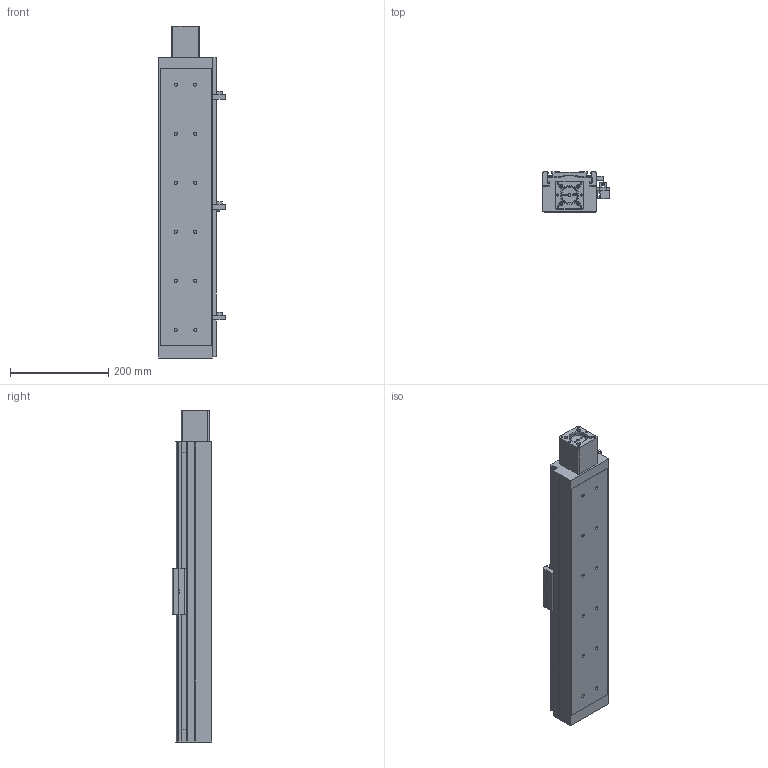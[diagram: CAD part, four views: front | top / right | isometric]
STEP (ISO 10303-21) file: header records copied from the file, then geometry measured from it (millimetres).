
FILE_DESCRIPTION((''),'2;1');
FILE_NAME('E:\libraries\UIA actuator library 2009\standard actuator\UIA110R12(15)DC\UIA110R12(15)DC-ball screw dia.16\UIA110R12(15)DC-_ _ _-R16_ _ step file 20Apr16\UIA110R12(15)DC-450-R16_ _-M23-P13-C10-S.stp','2016-04-20T16:54:57',('h029'),(''),'Autodesk Inventor 11','Autodesk Inventor 11','');
FILE_SCHEMA(('AUTOMOTIVE_DESIGN { 1 0 10303 214 1 1 1 1 }'));
Length unit declared in the file: millimetre
Products named in the file (10): UIA110R12(15)DC-450, ball screw dia.16; body, UIA110R12(15)DC-450,ball screw dia.16; Carriage, UIA110R12(15)DC; Sen Switch, UIA110R12(15)DC; sensor rail, UIA110R12(15)DC-450; SOH-32C; SOH-32C-3; SOH-32C-1; SOH-32C-2; M23 motor mount
Assembly tree (9 placements, depth 3):
  UIA110R12(15)DC-450, ball screw dia.16
    body, UIA110R12(15)DC-450,ball screw dia.16
    Carriage, UIA110R12(15)DC
    Sen Switch, UIA110R12(15)DC
    sensor rail, UIA110R12(15)DC-450
    SOH-32C
      SOH-32C-3
      SOH-32C-1
      SOH-32C-2
    M23 motor mount
Bounding box: 136.5 x 81 x 677 mm (x, y, z)
Volume: 4772283.1 mm3; surface area: 415552.9 mm2
Topology: 8 solids, 8 shells, 603 faces, 1629 edges, 1064 vertices
Faces by surface type: plane 381, cylinder 123, bspline 81, cone 18
Full cylindrical faces by diameter (mm): 2.459 x3, 3.242 x4, 4 x6, 4.5 x4, 5.5 x3, 6.35 x1, 6.5 x12, 7.5 x4, 8 x2, 9.5 x6, 10 x1, 10.5 x12, 21 x1, 32 x3, 37 x1, 38.1 x1, 42 x1, 42.01 x1, 43.5 x1
Entity records: 19444 total; most frequent: CARTESIAN_POINT 4969, DIRECTION 2901, ORIENTED_EDGE 2808, EDGE_CURVE 1404, VERTEX_POINT 991, AXIS2_PLACEMENT_3D 975, VECTOR 951, LINE 951
